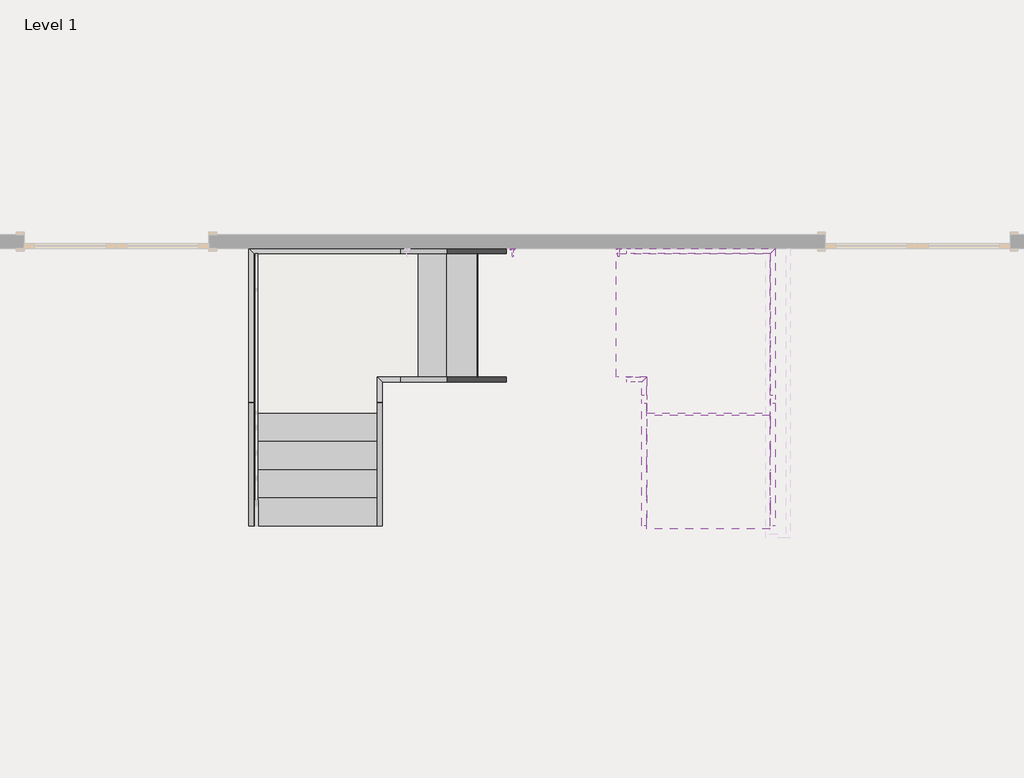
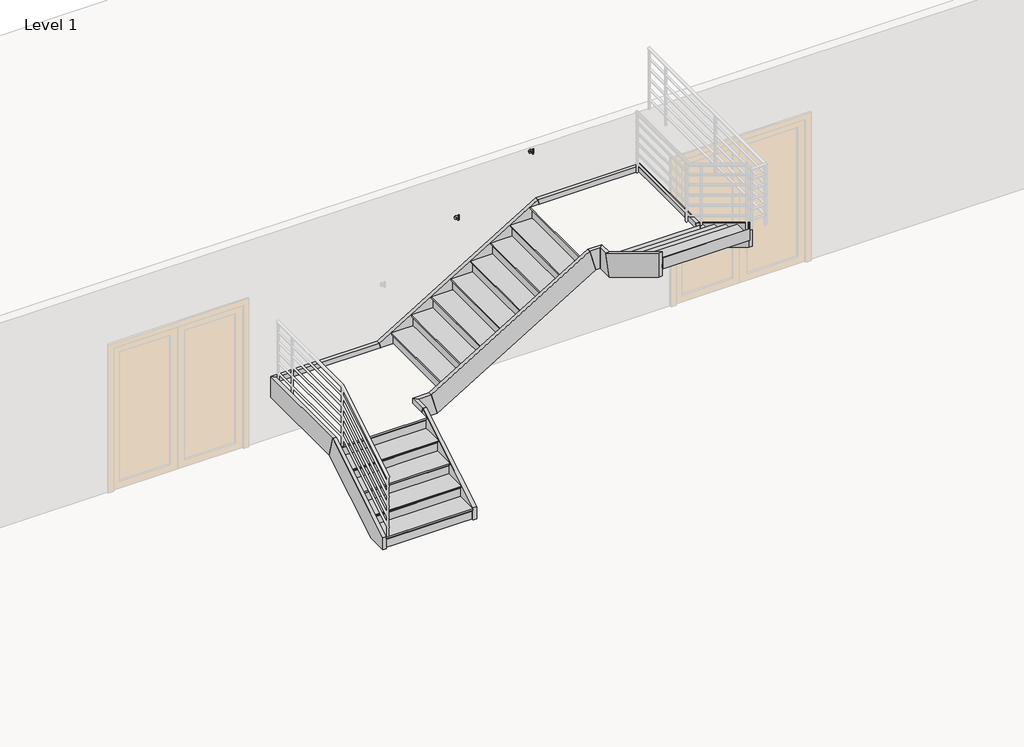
# One storey, part 5 of 5: 14 members, 3 stair flights, 2 proxies, 2 slabs.
"""IFC4 building model written with IfcOpenShell, lengths in millimetres."""

from ifc_helpers import new_model, si_unit, frame, origin, place, context, project, spatial, polyline, outline, extrude, faceted_brep, transform, mapped, element, save
from components import support_metal_circular_support_metal_circular_6fb01533, non_monolithic_landing_b97fd22c, non_monolithic_landing_d9560d72, stair_flight_a050f997, stair_flight_7657f764, stair_flight_49d914ed

model = new_model("IFC4")

# Units and contexts
model_context = context("Model", 3, world=origin())
ifc_project = project(units=[si_unit("LENGTHUNIT", "METRE", prefix="MILLI")], contexts=[model_context])

# Site, building, storey
site = spatial("IfcSite", under=ifc_project)
building = spatial("IfcBuilding", under=site)
storey = spatial("IfcBuildingStorey", under=building, Name="Level 1", Elevation=0.0)

# Proxies
placement = place(None, origin())
support_metal_circular_support_metal_circular_shape = support_metal_circular_support_metal_circular_6fb01533(model_context)
element("IfcBuildingElementProxy", 1, Name="Support - Metal - Circular : Support - Metal - Circular", ObjectType="Support - Metal - Circular : Support - Metal - Circular", at=placement, inside=storey, context=model_context, shape_type="MappedRepresentation", body=[
    mapped(support_metal_circular_support_metal_circular_shape, transform((-3132.0104965, 6463.5483604, 2458.8496275), x_axis=(1.0, 0.0, 0.0), y_axis=(0.0, 1.0, 0.0), z_axis=(0.0, 0.0, 1.0))),
])
element("IfcBuildingElementProxy", 2, Name="Support - Metal - Circular : Support - Metal - Circular", ObjectType="Support - Metal - Circular : Support - Metal - Circular", at=placement, inside=storey, context=model_context, shape_type="MappedRepresentation", body=[
    mapped(support_metal_circular_support_metal_circular_shape, transform((-2085.6851362, 6463.5483604, 3077.6333333), x_axis=(1.0, 0.0, 0.0), y_axis=(0.0, 1.0, 0.0), z_axis=(0.0, 0.0, 1.0))),
])

# Members
element("IfcMember", 3, ObjectType="Stringer - 2\" Width", at=placement, inside=storey, context=model_context, shape_type="SweptSolid", body=[
    extrude(outline(polyline([(3796.5483604, 0.0), (3796.5483604, 182.4137818), (5018.2956204, 922.8666667), (5103.4500769, 618.0666667), (4083.6400769, 0.0), (3796.5483604, 0.0)])), frame((-5743.217382, 0.0, 0.0), z_axis=(1.0, 0.0, 0.0), x_axis=(0.0, 1.0, 0.0)), (0.0, 0.0, 1.0), 50.8),
])
element("IfcMember", 4, ObjectType="Stringer - 2\" Width", at=placement, inside=storey, context=model_context, shape_type="SweptSolid", body=[
    extrude(outline(polyline([(3796.5483604, 0.0), (3796.5483604, 182.4137818), (5018.2956204, 922.8666667), (5103.4500769, 618.0666667), (4083.6400769, 0.0), (3796.5483604, 0.0)])), frame((-4473.217382, 0.0, 0.0), z_axis=(1.0, 0.0, 0.0), x_axis=(0.0, 1.0, 0.0)), (0.0, 0.0, 1.0), 50.8),
])
element("IfcMember", 5, ObjectType="Stringer - 2\" Width", at=placement, inside=storey, context=model_context, shape_type="SweptSolid", body=[
    extrude(outline(polyline([(922.8666667, -4242.070122), (618.0666667, -4156.9156655), (1972.7333333, -1921.7156655), (2277.5333333, -2006.870122), (922.8666667, -4242.070122)])), frame((0.0, 6488.9483604, 0.0), z_axis=(0.0, 1.0, 0.0), x_axis=(0.0, 0.0, 1.0)), (0.0, 0.0, 1.0), 50.8),
])
element("IfcMember", 6, ObjectType="Stringer - 2\" Width", at=placement, inside=storey, context=model_context, shape_type="SweptSolid", body=[
    extrude(outline(polyline([(922.8666667, -4242.070122), (618.0666667, -4156.9156655), (1972.7333333, -1921.7156655), (2277.5333333, -2006.870122), (922.8666667, -4242.070122)])), frame((0.0, 5218.9483604, 0.0), z_axis=(0.0, 1.0, 0.0), x_axis=(0.0, 0.0, 1.0)), (0.0, 0.0, 1.0), 50.8),
])
element("IfcMember", 7, ObjectType="Stringer - 2\" Width", at=placement, inside=storey, context=model_context, shape_type="Brep", body=[
    faceted_brep([(-4242.070122, 6488.9483604, 922.8666667), (-4242.070122, 6539.7483604, 922.8666667), (-5743.217382, 6539.7483604, 922.8666667), (-5692.417382, 6488.9483604, 922.8666667), (-4156.9156655, 6488.9483604, 618.0666667), (-5692.417382, 6488.9483604, 618.0666667), (-4156.9156655, 6539.7483604, 618.0666667), (-5743.217382, 6539.7483604, 618.0666667)], [[[0, 1, 2, 3]], [[4, 0, 3, 5]], [[6, 4, 5, 7]], [[1, 6, 7, 2]], [[1, 0, 4, 6]], [[2, 7, 5, 3]]]),
])
element("IfcMember", 8, ObjectType="Stringer - 2\" Width", at=placement, inside=storey, context=model_context, shape_type="Brep", body=[
    faceted_brep([(-5692.417382, 6488.9483604, 922.8666667), (-5743.217382, 6539.7483604, 922.8666667), (-5743.217382, 5018.2956204, 922.8666667), (-5692.417382, 5018.2956204, 922.8666667), (-5692.417382, 6488.9483604, 618.0666667), (-5692.417382, 5103.4500769, 618.0666667), (-5743.217382, 6539.7483604, 618.0666667), (-5743.217382, 5103.4500769, 618.0666667)], [[[0, 1, 2, 3]], [[4, 0, 3, 5]], [[6, 4, 5, 7]], [[1, 6, 7, 2]], [[1, 0, 4, 6]], [[2, 7, 5, 3]]]),
])
element("IfcMember", 9, ObjectType="Stringer - 2\" Width", at=placement, inside=storey, context=model_context, shape_type="Brep", body=[
    faceted_brep([(-4473.217382, 5018.2956204, 922.8666667), (-4422.417382, 5018.2956204, 922.8666667), (-4422.417382, 5218.9483604, 922.8666667), (-4473.217382, 5269.7483604, 922.8666667), (-4473.217382, 5103.4500769, 618.0666667), (-4473.217382, 5269.7483604, 618.0666667), (-4422.417382, 5103.4500769, 618.0666667), (-4422.417382, 5218.9483604, 618.0666667)], [[[0, 1, 2, 3]], [[4, 0, 3, 5]], [[6, 4, 5, 7]], [[1, 6, 7, 2]], [[1, 0, 4, 6]], [[2, 7, 5, 3]]]),
])
element("IfcMember", 10, ObjectType="Stringer - 2\" Width", at=placement, inside=storey, context=model_context, shape_type="Brep", body=[
    faceted_brep([(-4473.217382, 5269.7483604, 922.8666667), (-4422.417382, 5218.9483604, 922.8666667), (-4242.070122, 5218.9483604, 922.8666667), (-4242.070122, 5269.7483604, 922.8666667), (-4473.217382, 5269.7483604, 618.0666667), (-4156.9156655, 5269.7483604, 618.0666667), (-4422.417382, 5218.9483604, 618.0666667), (-4156.9156655, 5218.9483604, 618.0666667)], [[[0, 1, 2, 3]], [[4, 0, 3, 5]], [[6, 4, 5, 7]], [[1, 6, 7, 2]], [[1, 0, 4, 6]], [[2, 7, 5, 3]]]),
])
element("IfcMember", 11, ObjectType="Stringer - 2\" Width", at=placement, inside=storey, context=model_context, shape_type="SweptSolid", body=[
    extrude(outline(polyline([(5089.4011005, 2277.5333333), (5004.246644, 1972.7333333), (3796.5483604, 2704.671687), (3796.5483604, 3061.0804485), (5089.4011005, 2277.5333333)])), frame((-587.017382, 0.0, 0.0), z_axis=(1.0, 0.0, 0.0), x_axis=(0.0, 1.0, 0.0)), (0.0, 0.0, 1.0), 50.8),
])
element("IfcMember", 12, ObjectType="Stringer - 2\" Width", at=placement, inside=storey, context=model_context, shape_type="SweptSolid", body=[
    extrude(outline(polyline([(5089.4011005, 2277.5333333), (5004.246644, 1972.7333333), (3796.5483604, 2704.671687), (3796.5483604, 3061.0804485), (5089.4011005, 2277.5333333)])), frame((-1857.017382, 0.0, 0.0), z_axis=(1.0, 0.0, 0.0), x_axis=(0.0, 1.0, 0.0)), (0.0, 0.0, 1.0), 50.8),
])
element("IfcMember", 13, ObjectType="Stringer - 2\" Width", at=placement, inside=storey, context=model_context, shape_type="Brep", body=[
    faceted_brep([(-587.017382, 5089.4011005, 2277.5333333), (-536.217382, 5089.4011005, 2277.5333333), (-536.217382, 6539.7483604, 2277.5333333), (-587.017382, 6488.9483604, 2277.5333333), (-587.017382, 5004.246644, 1972.7333333), (-587.017382, 6488.9483604, 1972.7333333), (-536.217382, 5004.246644, 1972.7333333), (-536.217382, 6539.7483604, 1972.7333333)], [[[0, 1, 2, 3]], [[4, 0, 3, 5]], [[6, 4, 5, 7]], [[1, 6, 7, 2]], [[1, 0, 4, 6]], [[2, 7, 5, 3]]]),
])
element("IfcMember", 14, ObjectType="Stringer - 2\" Width", at=placement, inside=storey, context=model_context, shape_type="Brep", body=[
    faceted_brep([(-587.017382, 6488.9483604, 2277.5333333), (-536.217382, 6539.7483604, 2277.5333333), (-2006.870122, 6539.7483604, 2277.5333333), (-2006.870122, 6488.9483604, 2277.5333333), (-587.017382, 6488.9483604, 1972.7333333), (-1921.7156655, 6488.9483604, 1972.7333333), (-536.217382, 6539.7483604, 1972.7333333), (-1921.7156655, 6539.7483604, 1972.7333333)], [[[0, 1, 2, 3]], [[4, 0, 3, 5]], [[6, 4, 5, 7]], [[1, 6, 7, 2]], [[1, 0, 4, 6]], [[2, 7, 5, 3]]]),
])
element("IfcMember", 15, ObjectType="Stringer - 2\" Width", at=placement, inside=storey, context=model_context, shape_type="Brep", body=[
    faceted_brep([(-2006.870122, 5269.7483604, 2277.5333333), (-2006.870122, 5218.9483604, 2277.5333333), (-1857.017382, 5218.9483604, 2277.5333333), (-1806.217382, 5269.7483604, 2277.5333333), (-1921.7156655, 5269.7483604, 1972.7333333), (-1806.217382, 5269.7483604, 1972.7333333), (-1921.7156655, 5218.9483604, 1972.7333333), (-1857.017382, 5218.9483604, 1972.7333333)], [[[0, 1, 2, 3]], [[4, 0, 3, 5]], [[6, 4, 5, 7]], [[1, 6, 7, 2]], [[1, 0, 4, 6]], [[2, 7, 5, 3]]]),
])
element("IfcMember", 16, ObjectType="Stringer - 2\" Width", at=placement, inside=storey, context=model_context, shape_type="Brep", body=[
    faceted_brep([(-1806.217382, 5269.7483604, 2277.5333333), (-1857.017382, 5218.9483604, 2277.5333333), (-1857.017382, 5089.4011005, 2277.5333333), (-1806.217382, 5089.4011005, 2277.5333333), (-1806.217382, 5269.7483604, 1972.7333333), (-1806.217382, 5004.246644, 1972.7333333), (-1857.017382, 5218.9483604, 1972.7333333), (-1857.017382, 5004.246644, 1972.7333333)], [[[0, 1, 2, 3]], [[4, 0, 3, 5]], [[6, 4, 5, 7]], [[1, 6, 7, 2]], [[1, 0, 4, 6]], [[2, 7, 5, 3]]]),
])

# Slabs
non_monolithic_landing_shape = non_monolithic_landing_b97fd22c(model_context)
element("IfcSlab", 17, ObjectType="Non-Monolithic Landing", at=placement, inside=storey, context=model_context, shape_type="MappedRepresentation", body=[
    mapped(non_monolithic_landing_shape, transform((0.0, 0.0, 0.0), x_axis=(1.0, 0.0, 0.0), y_axis=(0.0, 1.0, 0.0), z_axis=(0.0, 0.0, 1.0))),
])
non_monolithic_landing_2_shape = non_monolithic_landing_d9560d72(model_context)
element("IfcSlab", 18, ObjectType="Non-Monolithic Landing", at=placement, inside=storey, context=model_context, shape_type="MappedRepresentation", body=[
    mapped(non_monolithic_landing_2_shape, transform((0.0, 0.0, 0.0), x_axis=(1.0, 0.0, 0.0), y_axis=(0.0, 1.0, 0.0), z_axis=(0.0, 0.0, 1.0))),
])

# Stair flights
stair_flight_shape = stair_flight_a050f997(model_context)
element("IfcStairFlight", 19, ObjectType="2\" Tread 1\" Nosing 1/4\" Riser", at=placement, inside=storey, context=model_context, shape_type="MappedRepresentation", body=[
    mapped(stair_flight_shape, transform((0.0, 0.0, 0.0), x_axis=(1.0, 0.0, 0.0), y_axis=(0.0, 1.0, 0.0), z_axis=(0.0, 0.0, 1.0))),
])
stair_flight_2_shape = stair_flight_7657f764(model_context)
element("IfcStairFlight", 20, ObjectType="2\" Tread 1\" Nosing 1/4\" Riser", at=placement, inside=storey, context=model_context, shape_type="MappedRepresentation", body=[
    mapped(stair_flight_2_shape, transform((0.0, 0.0, 0.0), x_axis=(1.0, 0.0, 0.0), y_axis=(0.0, 1.0, 0.0), z_axis=(0.0, 0.0, 1.0))),
])
stair_flight_3_shape = stair_flight_49d914ed(model_context)
element("IfcStairFlight", 21, ObjectType="2\" Tread 1\" Nosing 1/4\" Riser", at=placement, inside=storey, context=model_context, shape_type="MappedRepresentation", body=[
    mapped(stair_flight_3_shape, transform((0.0, 0.0, 0.0), x_axis=(1.0, 0.0, 0.0), y_axis=(0.0, 1.0, 0.0), z_axis=(0.0, 0.0, 1.0))),
])

save(model, "model.ifc")
